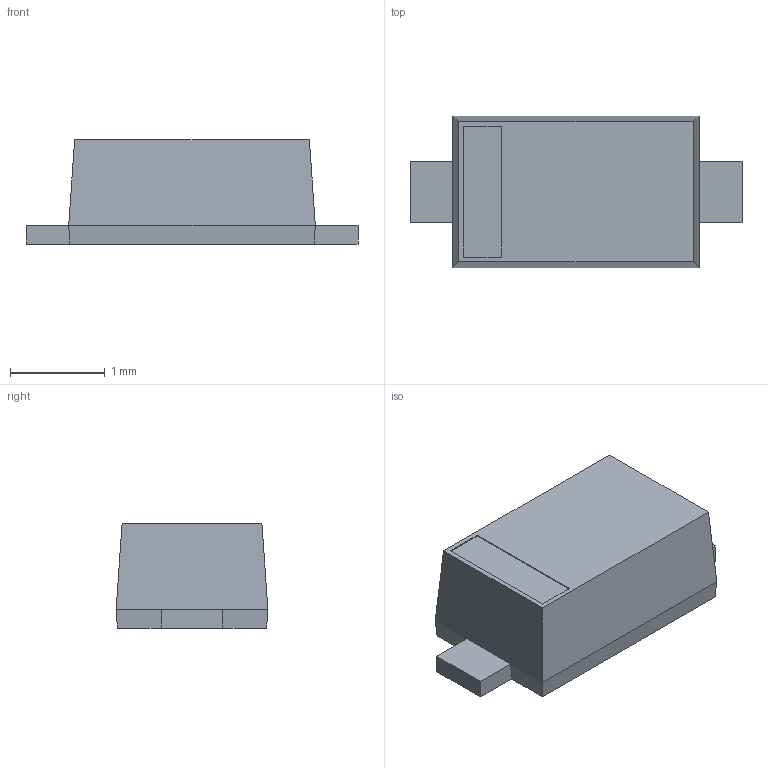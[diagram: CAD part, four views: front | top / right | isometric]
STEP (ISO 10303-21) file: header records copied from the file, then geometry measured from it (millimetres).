
FILE_DESCRIPTION(/* description */ ('STEP AP242 Edition 2','CAx-IF Rec.Pracs.---Representation and Presentation of Product Manufacturing Information (PMI)---4.0---2014-10-13','CAx-IF Rec.Pracs.---3D Tessellated Geometry---0.4---2014-09-14','2;1','CAx-IF Rec.Pracs.---User Defined Attributes---1.5---2016-08-15'),/* implementation_level */ '2;1');
FILE_NAME(/* name */ 'v2_assembly - D_SOD-123F',/* time_stamp */ '2026-05-19T16:26:04Z',/* author */ (''),/* organization */ (''),/* preprocessor_version */ 'ST-DEVELOPER v20',/* originating_system */ 'ONSHAPE BY PTC INC, 1.215',/* authorisation */ ' ');
FILE_SCHEMA (('AP242_MANAGED_MODEL_BASED_3D_ENGINEERING_MIM_LF { 1 0 10303 442 3 1 4 }'));
Length unit declared in the file: metre
Products named in the file (1): D_SOD-123F
Bounding box: 3.5 x 1.6 x 1.1 mm (x, y, z)
Volume: 4.4 mm3; surface area: 18.3 mm2
Topology: 1 solids, 1 shells, 25 faces, 58 edges, 36 vertices
Faces by surface type: plane 25
Entity records: 803 total; most frequent: CARTESIAN_POINT 120, ORIENTED_EDGE 116, DIRECTION 110, EDGE_CURVE 58, LINE 58, VECTOR 58, VERTEX_POINT 36, EDGE_LOOP 26
